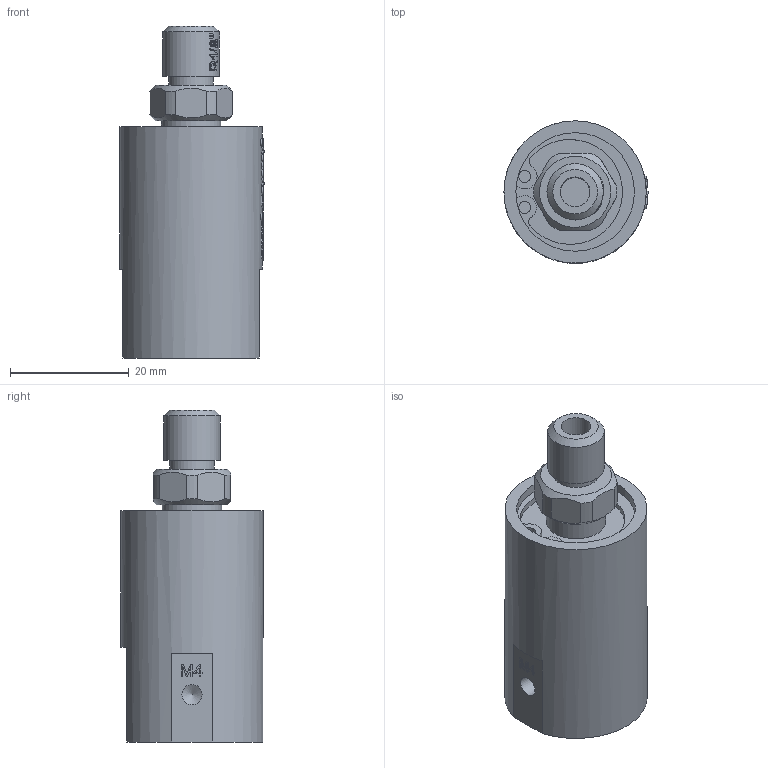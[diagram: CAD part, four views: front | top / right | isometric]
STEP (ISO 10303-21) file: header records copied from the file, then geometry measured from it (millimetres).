
FILE_DESCRIPTION(/* description */ (''),/* implementation_level */ '2;1');
FILE_NAME(/* name */ 'YC0101(RH)-3D模型.stp',/* time_stamp */ '2025-07-05T17:17:19+08:00',/* author */ (''),/* organization */ (''),/* preprocessor_version */ 'ST-DEVELOPER v16.7',/* originating_system */ 'SIEMENS PLM Software NX 12.0',/* authorisation */ '');
FILE_SCHEMA (('AUTOMOTIVE_DESIGN { 1 0 10303 214 3 1 1 1 }'));
Products named in the file (1): Admi0F5C2A87wn09
Bounding box: 24.3 x 24 x 56 mm (x, y, z)
Volume: 16888.6 mm3; surface area: 6105.1 mm2
Topology: 1 solids, 1 shells, 1163 faces, 3227 edges, 2152 vertices
Faces by surface type: extrusion 675, plane 379, bspline 53, cylinder 51, cone 5
Full cylindrical faces by diameter (mm): 2 x2, 3.4 x2, 5 x2, 7.5 x1, 8.5 x1, 9.5 x1, 10 x1, 20 x1, 21 x1, 24 x1
Entity records: 47813 total; most frequent: CARTESIAN_POINT 23294, ORIENTED_EDGE 6362, B_SPLINE_CURVE_WITH_KNOTS 3243, EDGE_CURVE 3181, DIRECTION 2365, VERTEX_POINT 2132, EDGE_LOOP 1273, ADVANCED_FACE 1162
